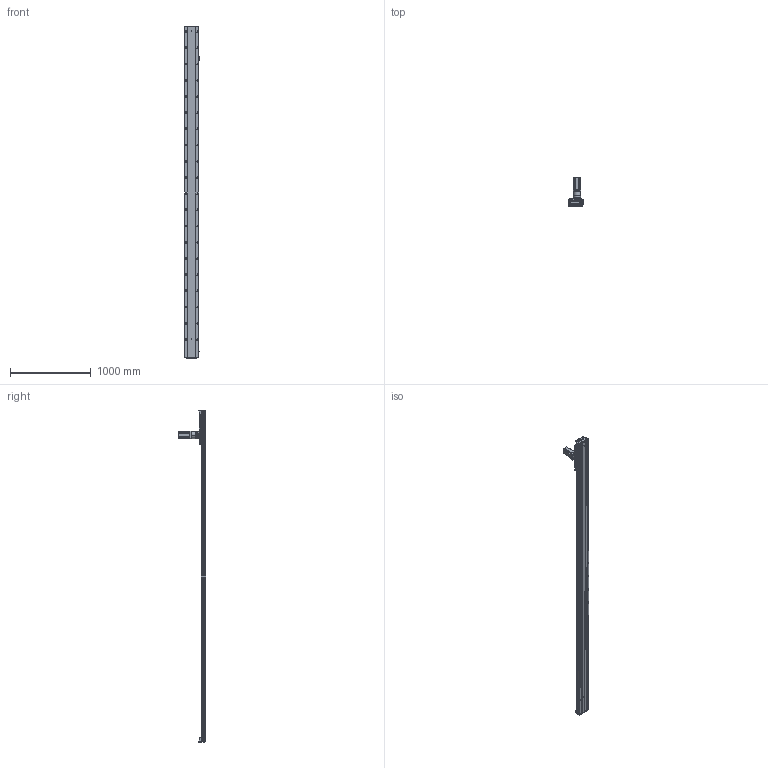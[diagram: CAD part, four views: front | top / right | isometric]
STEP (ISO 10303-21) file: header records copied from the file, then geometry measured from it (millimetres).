
FILE_DESCRIPTION (( 'STEP AP203' ), '1' );
FILE_NAME ('RY170-C-1000-UK.SLDASM_3600.step', '2021-03-03T00:49:07', ( '盈信电脑' ), ( '东莞市道滘镇水果街19号' ), 'SwSTEP 2.0', 'SolidWorks 2012', '' );
FILE_SCHEMA (( 'CONFIG_CONTROL_DESIGN' ));
Products named in the file (13): RY170-C-1000-UK.SLDASM_3600; 左旋斜齿齿轮_M2_22齿_内孔20; RY170-喘沭賑輸; RY170-喘沭滅袉蝶輸; TF080等撰; 怢湛750W萇儂ㄗ80遺ㄘ; RY170-喘謫萇儂覃誹啣; RY170外置感应片(200共用）; RY170-1000-喘沭耀郪絳寢EGH20CA_3600; 覜茼ん672; RY170綴裔啣ㄗ蜊秶ㄘ; RY170-1000齿条模组型材底座_3600; 絳寢賑輸EGH20CA
Assembly tree (22 placements, depth 2):
  RY170-C-1000-UK.SLDASM_3600
    RY170-1000齿条模组型材底座_3600
    絳寢賑輸EGH20CA  x6
    RY170-1000-喘沭耀郪絳寢EGH20CA_3600  x2
    RY170綴裔啣ㄗ蜊秶ㄘ  x2
    覜茼ん672  x3
    RY170外置感应片(200共用）
    RY170-喘謫萇儂覃誹啣
    怢湛750W萇儂ㄗ80遺ㄘ
    RY170-喘沭滅袉蝶輸  x2
    TF080等撰
    左旋斜齿齿轮_M2_22齿_内孔20
    RY170-喘沭賑輸
Bounding box: 188.7 x 343.5 x 4100 mm (x, y, z)
Volume: 19905342.1 mm3; surface area: 5202486.6 mm2
Topology: 24 solids, 24 shells, 5208 faces, 14874 edges, 9451 vertices
Faces by surface type: plane 2380, cylinder 2312, cone 462, bspline 50, torus 4
Entity records: 122606 total; most frequent: CARTESIAN_POINT 30388, ORIENTED_EDGE 19466, DIRECTION 18650, EDGE_CURVE 9733, AXIS2_PLACEMENT_3D 6994, VERTEX_POINT 6323, VECTOR 4662, LINE 4662
